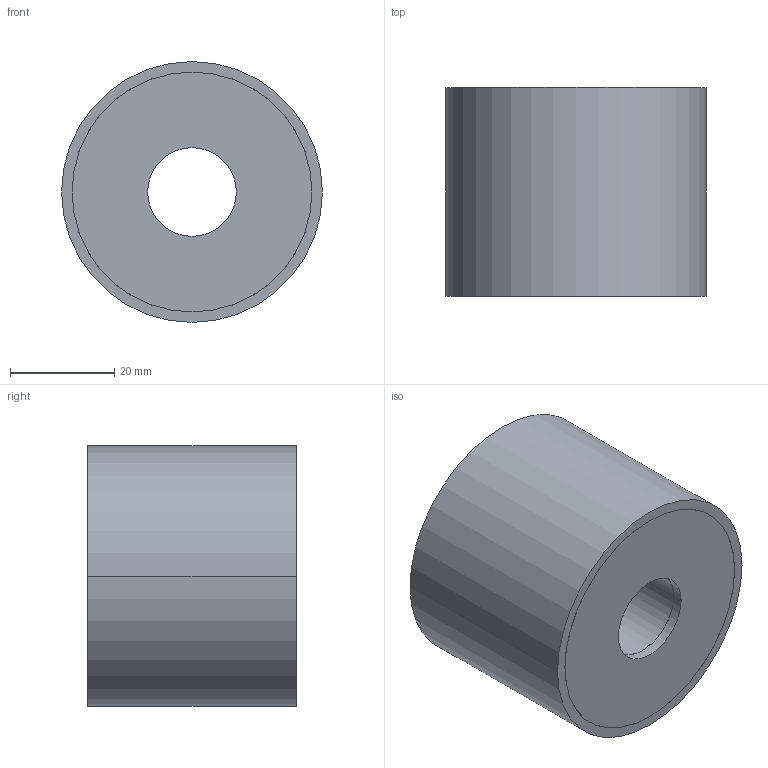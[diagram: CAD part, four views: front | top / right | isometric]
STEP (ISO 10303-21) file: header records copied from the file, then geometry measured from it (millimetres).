
FILE_DESCRIPTION (( 'STEP AP214' ), '1' );
FILE_NAME ('351-50-40-17-DD-70.step', '2025-07-23T10:11:31', ( '' ), ( '' ), 'SwSTEP 2.0', 'SolidWorks 2022', '' );
FILE_SCHEMA (( 'AUTOMOTIVE_DESIGN' ));
Length unit declared in the file: millimetre
Products named in the file (1): 351-50-40-17-DD-70
Bounding box: 50 x 40 x 50 mm (x, y, z)
Volume: 69460.6 mm3; surface area: 11900.4 mm2
Topology: 1 solids, 1 shells, 30 faces, 60 edges, 40 vertices
Faces by surface type: cylinder 20, plane 10
Entity records: 919 total; most frequent: DIRECTION 162, CARTESIAN_POINT 131, ORIENTED_EDGE 120, AXIS2_PLACEMENT_3D 71, EDGE_CURVE 60, EDGE_LOOP 40, VERTEX_POINT 40, CIRCLE 40
